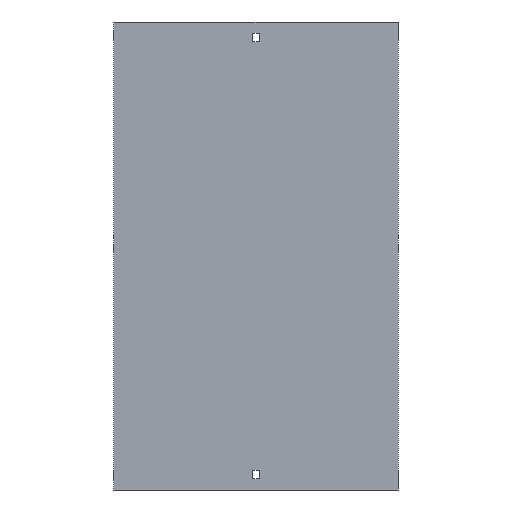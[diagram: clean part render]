
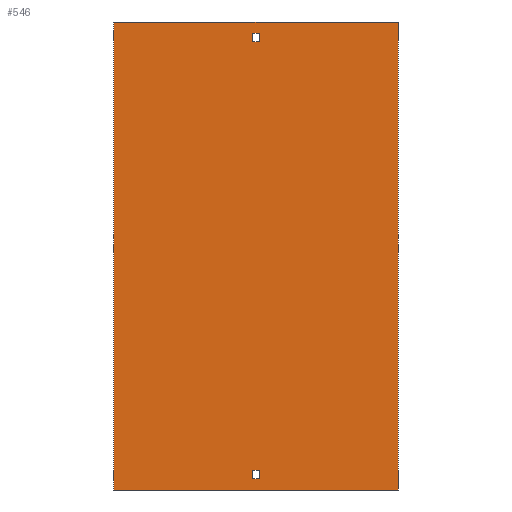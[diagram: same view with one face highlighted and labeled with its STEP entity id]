
A CAD part, front view. The second image highlights one B-rep face of the part: STEP entity #546.
In plain terms, the highlighted planar face has unit normal (0, -1, 0).
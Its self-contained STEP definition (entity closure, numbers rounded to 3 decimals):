
#42 = LINE ( 'NONE', #701, #282 ) ;
#89 = EDGE_CURVE ( 'NONE', #334, #1608, #361, .T. ) ;
#91 = CARTESIAN_POINT ( 'NONE',  ( -152., 0., -250. ) ) ;
#98 = DIRECTION ( 'NONE',  ( -1., 0., 0. ) ) ;
#133 = CARTESIAN_POINT ( 'NONE',  ( -3.25, 0., 229. ) ) ;
#177 = CARTESIAN_POINT ( 'NONE',  ( -3.25, 0., -238. ) ) ;
#183 = VERTEX_POINT ( 'NONE', #1191 ) ;
#197 = VECTOR ( 'NONE', #657, 1000. ) ;
#208 = DIRECTION ( 'NONE',  ( 0., 0., -1. ) ) ;
#210 = ORIENTED_EDGE ( 'NONE', *, *, #252, .F. ) ;
#218 = CARTESIAN_POINT ( 'NONE',  ( 3.25, 0., -229. ) ) ;
#230 = FACE_OUTER_BOUND ( 'NONE', #580, .T. ) ;
#232 = VERTEX_POINT ( 'NONE', #509 ) ;
#249 = DIRECTION ( 'NONE',  ( 1., 0., 0. ) ) ;
#250 = DIRECTION ( 'NONE',  ( 0., 1., 0. ) ) ;
#252 = EDGE_CURVE ( 'NONE', #1608, #1200, #944, .T. ) ;
#257 = VERTEX_POINT ( 'NONE', #683 ) ;
#282 = VECTOR ( 'NONE', #1484, 1000. ) ;
#331 = VECTOR ( 'NONE', #865, 1000. ) ;
#334 = VERTEX_POINT ( 'NONE', #1228 ) ;
#351 = CARTESIAN_POINT ( 'NONE',  ( -152., 0., 250. ) ) ;
#356 = EDGE_CURVE ( 'NONE', #1620, #1049, #599, .T. ) ;
#357 = ORIENTED_EDGE ( 'NONE', *, *, #484, .F. ) ;
#360 = LINE ( 'NONE', #885, #547 ) ;
#361 = LINE ( 'NONE', #133, #481 ) ;
#406 = ORIENTED_EDGE ( 'NONE', *, *, #1093, .F. ) ;
#408 = VECTOR ( 'NONE', #749, 1000. ) ;
#481 = VECTOR ( 'NONE', #249, 1000. ) ;
#484 = EDGE_CURVE ( 'NONE', #1470, #334, #1654, .T. ) ;
#507 = FACE_BOUND ( 'NONE', #877, .T. ) ;
#508 = ORIENTED_EDGE ( 'NONE', *, *, #1282, .T. ) ;
#509 = CARTESIAN_POINT ( 'NONE',  ( 3.25, 0., -238. ) ) ;
#521 = LINE ( 'NONE', #1400, #408 ) ;
#546 = ADVANCED_FACE ( 'NONE', ( #230, #507, #1020 ), #1548, .F. ) ;
#547 = VECTOR ( 'NONE', #98, 1000. ) ;
#566 = ORIENTED_EDGE ( 'NONE', *, *, #1318, .T. ) ;
#575 = ORIENTED_EDGE ( 'NONE', *, *, #979, .T. ) ;
#580 = EDGE_LOOP ( 'NONE', ( #1092, #638, #406, #508 ) ) ;
#599 = LINE ( 'NONE', #1254, #837 ) ;
#601 = CARTESIAN_POINT ( 'NONE',  ( 3.25, 0., -238. ) ) ;
#604 = DIRECTION ( 'NONE',  ( 1., 0., 0. ) ) ;
#638 = ORIENTED_EDGE ( 'NONE', *, *, #854, .F. ) ;
#657 = DIRECTION ( 'NONE',  ( 1., 0., 0. ) ) ;
#661 = ORIENTED_EDGE ( 'NONE', *, *, #89, .F. ) ;
#679 = CARTESIAN_POINT ( 'NONE',  ( -3.25, 0., 238. ) ) ;
#683 = CARTESIAN_POINT ( 'NONE',  ( 152., 0., 250. ) ) ;
#687 = VECTOR ( 'NONE', #1405, 1000. ) ;
#701 = CARTESIAN_POINT ( 'NONE',  ( -3.25, 0., 238. ) ) ;
#715 = LINE ( 'NONE', #601, #1229 ) ;
#733 = EDGE_CURVE ( 'NONE', #1200, #1470, #42, .T. ) ;
#736 = EDGE_CURVE ( 'NONE', #1109, #232, #715, .T. ) ;
#749 = DIRECTION ( 'NONE',  ( 1., 0., 0. ) ) ;
#777 = VERTEX_POINT ( 'NONE', #1211 ) ;
#813 = CARTESIAN_POINT ( 'NONE',  ( 3.25, 0., 229. ) ) ;
#819 = LINE ( 'NONE', #1464, #197 ) ;
#827 = LINE ( 'NONE', #968, #1137 ) ;
#835 = DIRECTION ( 'NONE',  ( 0., 0., -1. ) ) ;
#837 = VECTOR ( 'NONE', #1122, 1000. ) ;
#846 = VECTOR ( 'NONE', #835, 1000. ) ;
#854 = EDGE_CURVE ( 'NONE', #257, #777, #987, .T. ) ;
#865 = DIRECTION ( 'NONE',  ( 0., 0., -1. ) ) ;
#874 = CARTESIAN_POINT ( 'NONE',  ( -3.25, 0., 238. ) ) ;
#877 = EDGE_LOOP ( 'NONE', ( #661, #357, #1485, #210 ) ) ;
#885 = CARTESIAN_POINT ( 'NONE',  ( -3.25, 0., -238. ) ) ;
#944 = LINE ( 'NONE', #1068, #1219 ) ;
#968 = CARTESIAN_POINT ( 'NONE',  ( -152., 0., -250. ) ) ;
#979 = EDGE_CURVE ( 'NONE', #1049, #1109, #521, .T. ) ;
#987 = LINE ( 'NONE', #1517, #846 ) ;
#1020 = FACE_BOUND ( 'NONE', #1268, .T. ) ;
#1044 = CARTESIAN_POINT ( 'NONE',  ( -3.25, 0., -229. ) ) ;
#1049 = VERTEX_POINT ( 'NONE', #1044 ) ;
#1068 = CARTESIAN_POINT ( 'NONE',  ( 3.25, 0., 238. ) ) ;
#1092 = ORIENTED_EDGE ( 'NONE', *, *, #1161, .T. ) ;
#1093 = EDGE_CURVE ( 'NONE', #183, #257, #819, .T. ) ;
#1109 = VERTEX_POINT ( 'NONE', #218 ) ;
#1122 = DIRECTION ( 'NONE',  ( 0., 0., 1. ) ) ;
#1124 = AXIS2_PLACEMENT_3D ( 'NONE', #1421, #250, #1155 ) ;
#1137 = VECTOR ( 'NONE', #604, 1000. ) ;
#1155 = DIRECTION ( 'NONE',  ( -1., 0., 0. ) ) ;
#1161 = EDGE_CURVE ( 'NONE', #1385, #777, #827, .T. ) ;
#1191 = CARTESIAN_POINT ( 'NONE',  ( -152., 0., 250. ) ) ;
#1200 = VERTEX_POINT ( 'NONE', #1234 ) ;
#1211 = CARTESIAN_POINT ( 'NONE',  ( 152., 0., -250. ) ) ;
#1219 = VECTOR ( 'NONE', #1610, 1000. ) ;
#1228 = CARTESIAN_POINT ( 'NONE',  ( -3.25, 0., 229. ) ) ;
#1229 = VECTOR ( 'NONE', #208, 1000. ) ;
#1234 = CARTESIAN_POINT ( 'NONE',  ( 3.25, 0., 238. ) ) ;
#1254 = CARTESIAN_POINT ( 'NONE',  ( -3.25, 0., -238. ) ) ;
#1268 = EDGE_LOOP ( 'NONE', ( #1408, #575, #1481, #566 ) ) ;
#1282 = EDGE_CURVE ( 'NONE', #183, #1385, #1515, .T. ) ;
#1318 = EDGE_CURVE ( 'NONE', #232, #1620, #360, .T. ) ;
#1385 = VERTEX_POINT ( 'NONE', #91 ) ;
#1400 = CARTESIAN_POINT ( 'NONE',  ( -3.25, 0., -229. ) ) ;
#1405 = DIRECTION ( 'NONE',  ( 0., 0., -1. ) ) ;
#1408 = ORIENTED_EDGE ( 'NONE', *, *, #356, .T. ) ;
#1421 = CARTESIAN_POINT ( 'NONE',  ( -152., 0., 250. ) ) ;
#1464 = CARTESIAN_POINT ( 'NONE',  ( -152., 0., 250. ) ) ;
#1470 = VERTEX_POINT ( 'NONE', #679 ) ;
#1481 = ORIENTED_EDGE ( 'NONE', *, *, #736, .T. ) ;
#1484 = DIRECTION ( 'NONE',  ( -1., 0., 0. ) ) ;
#1485 = ORIENTED_EDGE ( 'NONE', *, *, #733, .F. ) ;
#1515 = LINE ( 'NONE', #351, #331 ) ;
#1517 = CARTESIAN_POINT ( 'NONE',  ( 152., 0., 250. ) ) ;
#1548 = PLANE ( 'NONE',  #1124 ) ;
#1608 = VERTEX_POINT ( 'NONE', #813 ) ;
#1610 = DIRECTION ( 'NONE',  ( 0., 0., 1. ) ) ;
#1620 = VERTEX_POINT ( 'NONE', #177 ) ;
#1654 = LINE ( 'NONE', #874, #687 ) ;
